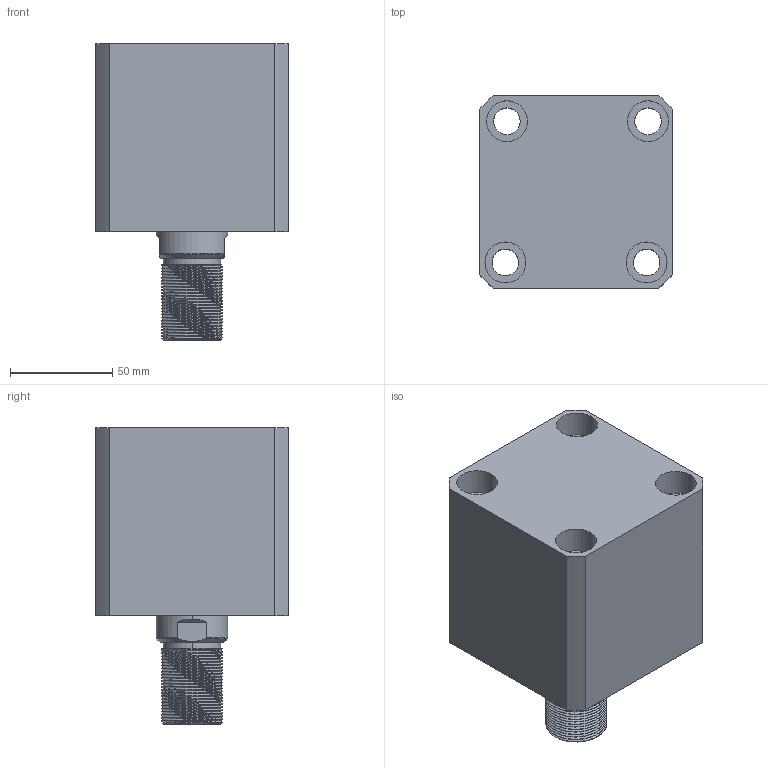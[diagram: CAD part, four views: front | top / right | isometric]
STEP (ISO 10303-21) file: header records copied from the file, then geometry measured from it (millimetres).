
FILE_DESCRIPTION (( 'STEP AP214' ), '1' );
FILE_NAME ('chtb-sdma63x25w_asm.STEP', '2018-05-18T09:20:28', ( 'Windows' ), ( 'Microsoft' ), 'SwSTEP 2.0', 'SolidWorks 2015', '' );
FILE_SCHEMA (( 'AUTOMOTIVE_DESIGN' ));
Length unit declared in the file: millimetre
Products named in the file (4): CHTB-SDMA63X25NBT; CHTB63X25WHSG; CHTB-63QG; chtb-sdma63x25w_asm
Assembly tree (3 placements, depth 2):
  chtb-sdma63x25w_asm
    CHTB-63QG
    CHTB63X25WHSG
    CHTB-SDMA63X25NBT
Bounding box: 94 x 94 x 145 mm (x, y, z)
Volume: 720776.8 mm3; surface area: 129394.9 mm2
Topology: 3 solids, 3 shells, 219 faces, 632 edges, 430 vertices
Faces by surface type: cylinder 156, plane 34, bspline 14, cone 9, torus 6
Entity records: 22297 total; most frequent: CARTESIAN_POINT 17024, ORIENTED_EDGE 1256, DIRECTION 878, EDGE_CURVE 628, VERTEX_POINT 430, AXIS2_PLACEMENT_3D 343, EDGE_LOOP 252, FACE_OUTER_BOUND 219
